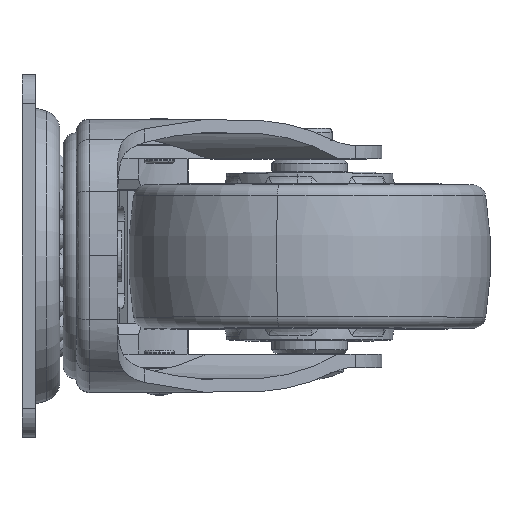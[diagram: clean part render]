
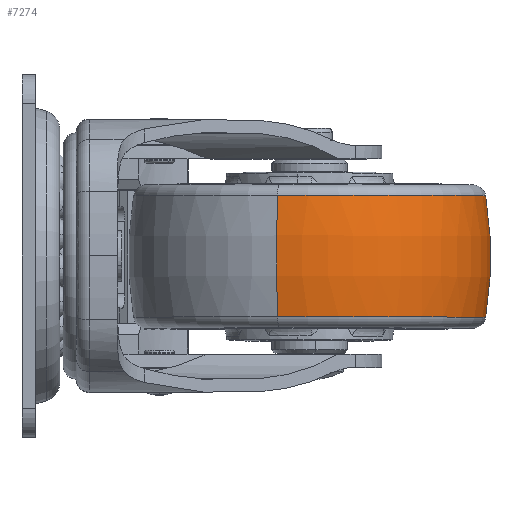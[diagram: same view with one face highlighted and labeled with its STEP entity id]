
A CAD part, left-side view. The second image highlights one B-rep face of the part: STEP entity #7274.
In plain terms, the highlighted toroidal (fillet/blend) face has major radius 25.5 mm and minor radius 50.5 mm.
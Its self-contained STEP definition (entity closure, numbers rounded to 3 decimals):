
#765 = AXIS2_PLACEMENT_3D ( 'NONE', #35163, #19269, #7946 ) ;
#1229 = EDGE_CURVE ( 'NONE', #19497, #6691, #47037, .T. ) ;
#2133 = CARTESIAN_POINT ( 'NONE',  ( 0., 0., 0. ) ) ;
#2771 = ORIENTED_EDGE ( 'NONE', *, *, #18784, .T. ) ;
#3595 = AXIS2_PLACEMENT_3D ( 'NONE', #14081, #14325, #21864 ) ;
#5078 = CIRCLE ( 'NONE', #19541, 50.5 ) ;
#5659 = FACE_OUTER_BOUND ( 'NONE', #33627, .T. ) ;
#6691 = VERTEX_POINT ( 'NONE', #48577 ) ;
#7274 = ADVANCED_FACE ( 'NONE', ( #5659 ), #17385, .T. ) ;
#7946 = DIRECTION ( 'NONE',  ( 0., 0., 1. ) ) ;
#13459 = DIRECTION ( 'NONE',  ( 0., 0., -1. ) ) ;
#14081 = CARTESIAN_POINT ( 'NONE',  ( 0., 0., -25.5 ) ) ;
#14325 = DIRECTION ( 'NONE',  ( 0., -1., 0. ) ) ;
#15636 = DIRECTION ( 'NONE',  ( 0., 0., 1. ) ) ;
#16905 = VERTEX_POINT ( 'NONE', #17134 ) ;
#17134 = CARTESIAN_POINT ( 'NONE',  ( 8.399, 0., -24.297 ) ) ;
#17385 = TOROIDAL_SURFACE ( 'NONE', #37505, -25.5, 50.5 ) ;
#18784 = EDGE_CURVE ( 'NONE', #16905, #19497, #25505, .T. ) ;
#19269 = DIRECTION ( 'NONE',  ( -1., 0., 0. ) ) ;
#19497 = VERTEX_POINT ( 'NONE', #25059 ) ;
#19541 = AXIS2_PLACEMENT_3D ( 'NONE', #35302, #35545, #15636 ) ;
#21864 = DIRECTION ( 'NONE',  ( 0., 0., -1. ) ) ;
#22223 = CARTESIAN_POINT ( 'NONE',  ( -8.399, 0., -24.297 ) ) ;
#22450 = CIRCLE ( 'NONE', #765, 24.297 ) ;
#24265 = DIRECTION ( 'NONE',  ( -1., 0., 0. ) ) ;
#24926 = EDGE_CURVE ( 'NONE', #16905, #47759, #5078, .T. ) ;
#25059 = CARTESIAN_POINT ( 'NONE',  ( 8.399, 0., 24.297 ) ) ;
#25505 = CIRCLE ( 'NONE', #36793, 24.297 ) ;
#32654 = DIRECTION ( 'NONE',  ( 0., 0., 1. ) ) ;
#33627 = EDGE_LOOP ( 'NONE', ( #41887, #2771, #48268, #34069 ) ) ;
#34069 = ORIENTED_EDGE ( 'NONE', *, *, #42328, .F. ) ;
#35163 = CARTESIAN_POINT ( 'NONE',  ( -8.399, 0., 0. ) ) ;
#35302 = CARTESIAN_POINT ( 'NONE',  ( 0., 0., 25.5 ) ) ;
#35545 = DIRECTION ( 'NONE',  ( 0., 1., 0. ) ) ;
#36793 = AXIS2_PLACEMENT_3D ( 'NONE', #46529, #36917, #32654 ) ;
#36917 = DIRECTION ( 'NONE',  ( -1., 0., 0. ) ) ;
#37505 = AXIS2_PLACEMENT_3D ( 'NONE', #2133, #24265, #13459 ) ;
#41887 = ORIENTED_EDGE ( 'NONE', *, *, #24926, .F. ) ;
#42328 = EDGE_CURVE ( 'NONE', #47759, #6691, #22450, .T. ) ;
#46529 = CARTESIAN_POINT ( 'NONE',  ( 8.399, 0., 0. ) ) ;
#47037 = CIRCLE ( 'NONE', #3595, 50.5 ) ;
#47759 = VERTEX_POINT ( 'NONE', #22223 ) ;
#48268 = ORIENTED_EDGE ( 'NONE', *, *, #1229, .T. ) ;
#48577 = CARTESIAN_POINT ( 'NONE',  ( -8.399, 0., 24.297 ) ) ;
